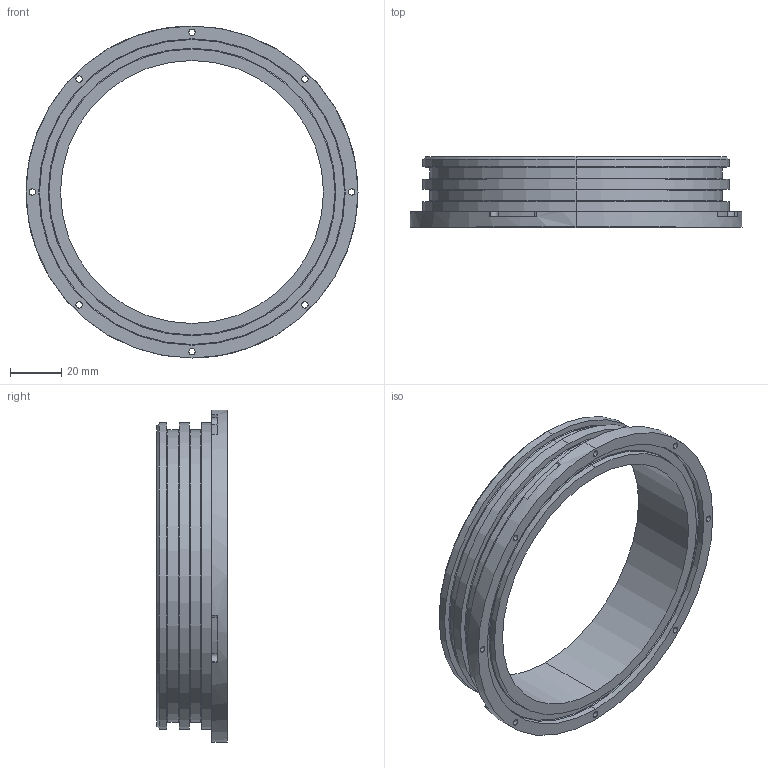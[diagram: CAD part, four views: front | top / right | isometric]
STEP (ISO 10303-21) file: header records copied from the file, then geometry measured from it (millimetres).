
FILE_DESCRIPTION (( 'STEP AP203' ), '1' );
FILE_NAME ('130通用法兰.STEP', '2019-07-19T03:00:27', ( '' ), ( '' ), 'SwSTEP 2.0', 'SolidWorks 2016', '' );
FILE_SCHEMA (( 'CONFIG_CONTROL_DESIGN' ));
Length unit declared in the file: millimetre
Products named in the file (1): 130籵蚚楊擘
Bounding box: 130 x 27.6 x 130 mm (x, y, z)
Volume: 79300.8 mm3; surface area: 35409.6 mm2
Topology: 1 solids, 1 shells, 115 faces, 288 edges, 174 vertices
Faces by surface type: cylinder 64, plane 21, cone 18, torus 12
Entity records: 3485 total; most frequent: DIRECTION 666, CARTESIAN_POINT 562, ORIENTED_EDGE 544, AXIS2_PLACEMENT_3D 278, EDGE_CURVE 272, VERTEX_POINT 174, CIRCLE 162, EDGE_LOOP 148
